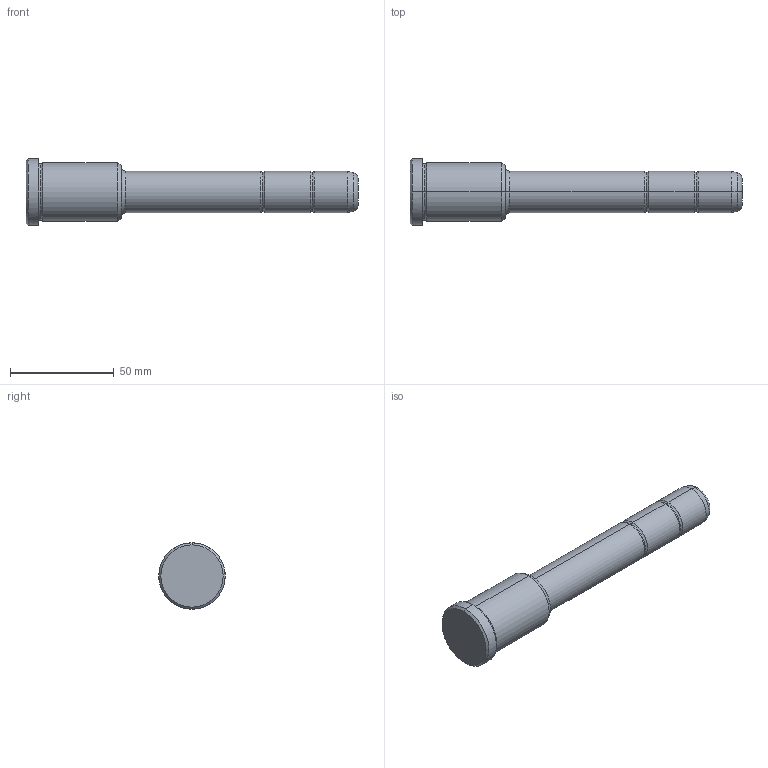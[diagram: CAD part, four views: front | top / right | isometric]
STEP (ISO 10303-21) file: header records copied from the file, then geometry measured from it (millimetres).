
FILE_DESCRIPTION(('CATIA V5 STEP Exchange'),'2;1');
FILE_NAME('C:\Users\Utente\Desktop\IO LAVORO\3D X SITO CF\X SITO\PLASTICA\351\351-20X46X160.stp','2021-08-27T12:52:52+00:00',('none'),('none'),'CATIA Version 5 Release 20 GA (IN-10)','CATIA V5 STEP AP203','none');
FILE_SCHEMA(('CONFIG_CONTROL_DESIGN'));
Length unit declared in the file: millimetre
Products named in the file (1): 351-20X46X160
Bounding box: 160 x 32 x 32 mm (x, y, z)
Volume: 64777.5 mm3; surface area: 12627.2 mm2
Topology: 1 solids, 1 shells, 36 faces, 102 edges, 70 vertices
Faces by surface type: torus 16, cylinder 10, cone 6, plane 4
Entity records: 1292 total; most frequent: CARTESIAN_POINT 321, ORIENTED_EDGE 204, DIRECTION 166, AXIS2_PLACEMENT_3D 115, EDGE_CURVE 102, CIRCLE 78, VERTEX_POINT 70, EDGE_LOOP 38
